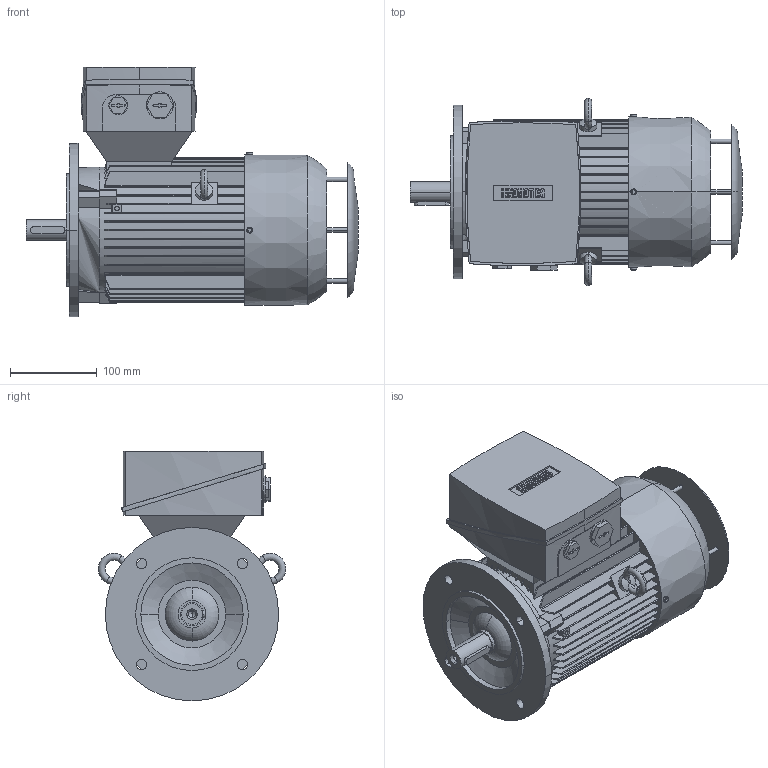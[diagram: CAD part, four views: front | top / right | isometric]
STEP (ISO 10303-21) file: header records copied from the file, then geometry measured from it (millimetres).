
FILE_DESCRIPTION(('STEP AP214'),'1');
FILE_NAME('cctmp_A55D6F26-D4CE-4F8F-A5C9-58D86C46E481_2026_04_15_12_23_26_0135_23844..stp','2026-04-15T10:23:26',('KiM GmbH'),('CADClick - www.CADClick.com'),'Spatial InterOp 3D',' ','unknown authorization');
FILE_SCHEMA(('AUTOMOTIVE_DESIGN'));
Length unit declared in the file: millimetre
Products named in the file (1): 2026_04_15_12_23_26_0135
Bounding box: 383 x 216.39 x 288 mm (x, y, z)
Volume: 7819509.6 mm3; surface area: 525734 mm2
Topology: 1 solids, 1 shells, 758 faces, 2123 edges, 1391 vertices
Faces by surface type: plane 455, cylinder 217, torus 62, cone 20, sphere 4
Entity records: 32219 total; most frequent: CARTESIAN_POINT 6257, ORIENTED_EDGE 4222, DIRECTION 4140, EDGE_CURVE 2109, AXIS2_PLACEMENT_3D 1401, VERTEX_POINT 1391, LINE 1338, VECTOR 1338
